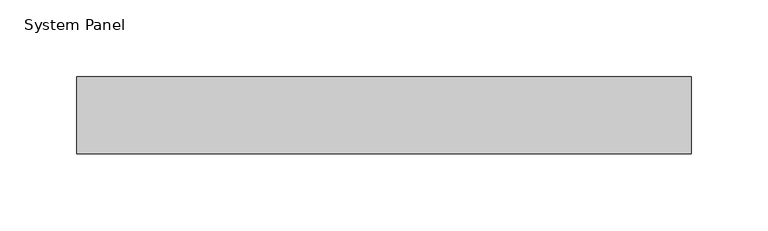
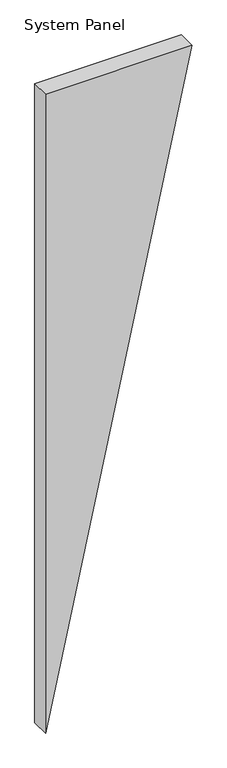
"""IFC4 building model written with IfcOpenShell, lengths in millimetres: plate geometry, System Panel : MetecnoPanel_50mm_Plain_Surfmist."""

from ifc_helpers import new_model, si_unit, frame, origin, place, context, project, spatial, polyline, outline, extrude, source, transform, mapped, element, save


def system_panel_d58b1396(model_context):
    return source(origin(), model_context, "Body", "SweptSolid", [
        extrude(outline(polyline([(1839.9852118, -200.0), (0.0, -200.0), (1839.9852118, 200.0), (1839.9852118, -200.0)])), frame((0.0, -50.0, 0.0), z_axis=(0.0, 1.0, 0.0), x_axis=(0.0, 0.0, 1.0)), (0.0, 0.0, 1.0), 50.0),
    ])


if __name__ == "__main__":
    model = new_model("IFC4")
    model_context = context("Model", 3, world=origin())
    ifc_project = project(units=[si_unit("LENGTHUNIT", "METRE", prefix="MILLI")], contexts=[model_context])
    site = spatial("IfcSite", under=ifc_project)
    building = spatial("IfcBuilding", under=site)
    placement = place(None, origin())
    system_panel_shape = system_panel_d58b1396(model_context)
    element("IfcPlate", 1, ObjectType="System Panel : MetecnoPanel_50mm_Plain_Surfmist", at=placement, inside=building, context=model_context, shape_type="MappedRepresentation", body=[
        mapped(system_panel_shape, transform((0.0, 0.0, 0.0), x_axis=(1.0, 0.0, 0.0), y_axis=(0.0, 1.0, 0.0), z_axis=(0.0, 0.0, 1.0))),
    ])
    save(model, "model.ifc")
